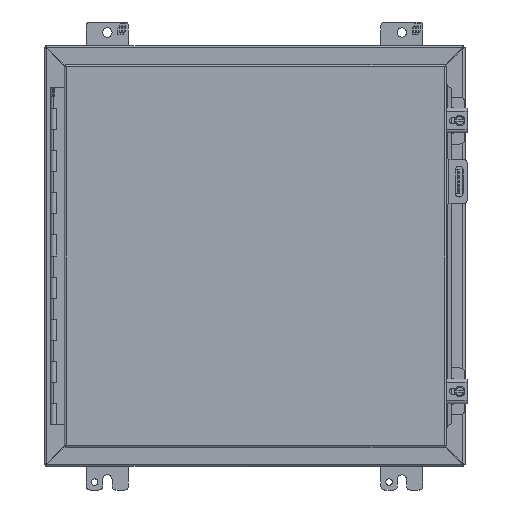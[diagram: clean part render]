
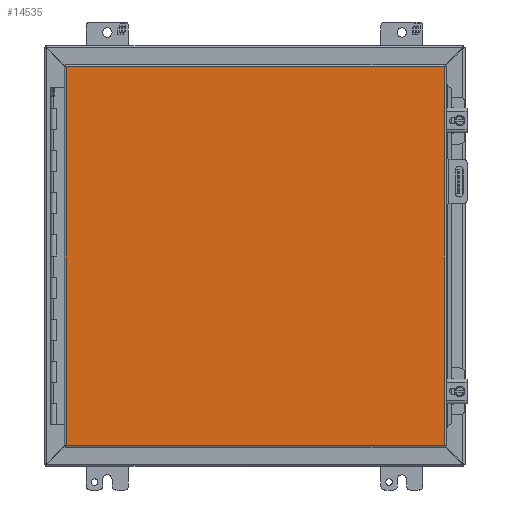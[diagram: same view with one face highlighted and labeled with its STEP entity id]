
A CAD part, front view. The second image highlights one B-rep face of the part: STEP entity #14535.
In plain terms, the highlighted planar face has unit normal (0, -1, 0).
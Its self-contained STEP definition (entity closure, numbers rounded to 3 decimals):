
#1158=LINE('',#21535,#2551);
#1159=LINE('',#21538,#2552);
#1160=LINE('',#21540,#2553);
#1161=LINE('',#21542,#2554);
#2551=VECTOR('',#17579,1000.);
#2552=VECTOR('',#17580,1000.);
#2553=VECTOR('',#17581,1000.);
#2554=VECTOR('',#17582,1000.);
#5082=ORIENTED_EDGE('',*,*,#8680,.T.);
#5083=ORIENTED_EDGE('',*,*,#8681,.T.);
#5084=ORIENTED_EDGE('',*,*,#8682,.T.);
#5085=ORIENTED_EDGE('',*,*,#8683,.T.);
#8680=EDGE_CURVE('',#10562,#10563,#1158,.T.);
#8681=EDGE_CURVE('',#10563,#10564,#1159,.T.);
#8682=EDGE_CURVE('',#10564,#10565,#1160,.T.);
#8683=EDGE_CURVE('',#10565,#10562,#1161,.T.);
#10562=VERTEX_POINT('',#21536);
#10563=VERTEX_POINT('',#21537);
#10564=VERTEX_POINT('',#21539);
#10565=VERTEX_POINT('',#21541);
#12158=EDGE_LOOP('',(#5082,#5083,#5084,#5085));
#13091=FACE_BOUND('',#12158,.T.);
#13915=PLANE('',#15624);
#14535=ADVANCED_FACE('',(#13091),#13915,.T.);
#15624=AXIS2_PLACEMENT_3D('',#21534,#17577,#17578);
#17577=DIRECTION('',(0.,-1.,0.));
#17578=DIRECTION('',(0.,0.,-1.));
#17579=DIRECTION('',(0.,0.,-1.));
#17580=DIRECTION('',(1.,0.,0.));
#17581=DIRECTION('',(0.,0.,1.));
#17582=DIRECTION('',(-1.,0.,0.));
#21534=CARTESIAN_POINT('',(-228.244,0.,-228.46));
#21535=CARTESIAN_POINT('',(-228.244,0.,228.46));
#21536=CARTESIAN_POINT('',(-228.244,0.,228.46));
#21537=CARTESIAN_POINT('',(-228.244,0.,-228.46));
#21538=CARTESIAN_POINT('',(-228.244,0.,-228.46));
#21539=CARTESIAN_POINT('',(228.244,0.,-228.46));
#21540=CARTESIAN_POINT('',(228.244,0.,-228.46));
#21541=CARTESIAN_POINT('',(228.244,0.,228.46));
#21542=CARTESIAN_POINT('',(228.244,0.,228.46));
